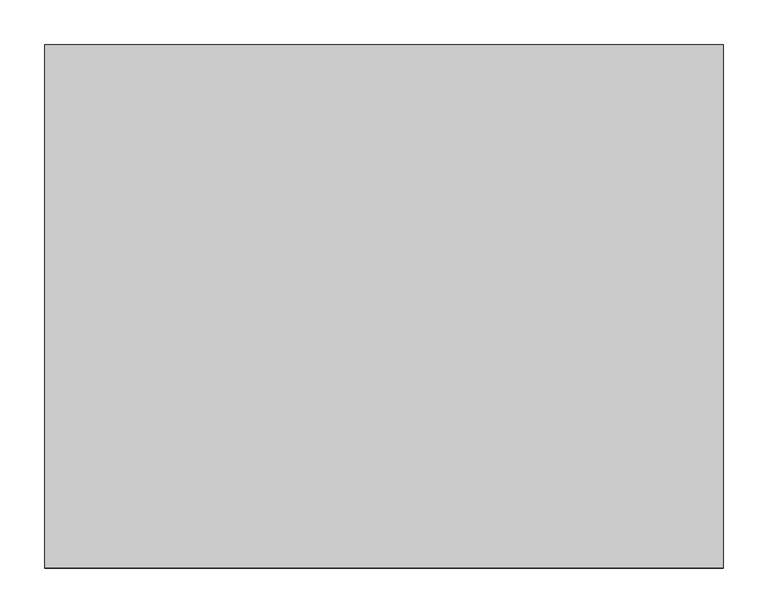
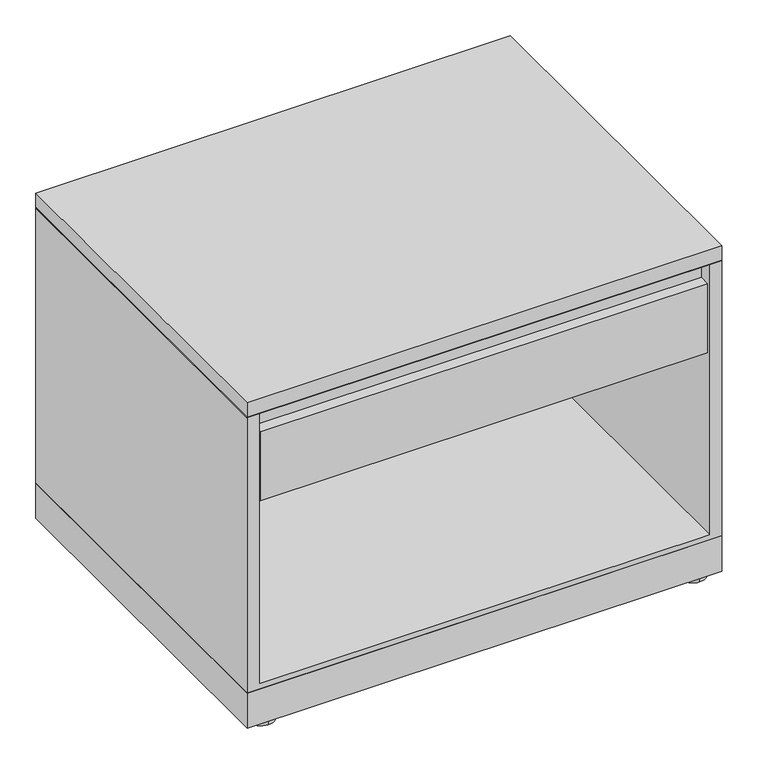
"""IFC4 building model written with IfcOpenShell, lengths in millimetres: furniture geometry, Steelcase - Universal Storage - Lateral File - 1.5 High - Flush Steel : Drawer/Open - 23 1/8D x 30W."""

from ifc_helpers import new_model, si_unit, point, frame, frame_2d, origin, origin_with_axes, place, context, project, spatial, polyline, circle_curve, trimmed, segment, composite_curve, outline, extrude, faceted_brep, source, transform, mapped, element, save


def furniture_3a3bf5ed(model_context):
    return source(origin(), model_context, "Body", "SolidModel", [
        extrude(outline(polyline([(762.0, 587.502), (762.0, 0.0), (0.0, 0.0), (0.0, 587.502), (762.0, 587.502)])), frame((0.0, 0.0, 6.3500002), z_axis=(0.0, 0.0, 1.0), x_axis=(1.0, 0.0, 0.0)), (0.0, 0.0, 1.0), 59.6899998),
        extrude(outline(composite_curve([segment(trimmed(circle_curve(frame_2d((727.3290058, 565.1653666)), 20.32), [point((727.3290058, 544.8453666))], [point((727.3290058, 585.4853666))], False, "CARTESIAN"), True, "CONTINUOUS"), segment(trimmed(circle_curve(frame_2d((727.3290058, 565.1653666)), 20.32), [point((727.3290058, 585.4853666))], [point((727.3290058, 544.8453666))], False, "CARTESIAN"), True, "CONTINUOUS")], self_intersect=False)), origin_with_axes(), (0.0, 0.0, 1.0), 6.3500002),
        extrude(outline(composite_curve([segment(trimmed(circle_curve(frame_2d((727.3290058, 20.7491455)), 20.32), [point((727.3290058, 0.4291455))], [point((727.3290058, 41.0691455))], False, "CARTESIAN"), True, "CONTINUOUS"), segment(trimmed(circle_curve(frame_2d((727.3290058, 20.7491455)), 20.32), [point((727.3290058, 41.0691455))], [point((727.3290058, 0.4291455))], False, "CARTESIAN"), True, "CONTINUOUS")], self_intersect=False)), origin_with_axes(), (0.0, 0.0, 1.0), 6.3500002),
        extrude(outline(composite_curve([segment(trimmed(circle_curve(frame_2d((34.29, 565.1653666)), 20.32), [point((34.29, 585.4853666))], [point((34.29, 544.8453666))], False, "CARTESIAN"), True, "CONTINUOUS"), segment(trimmed(circle_curve(frame_2d((34.29, 565.1653666)), 20.32), [point((34.29, 544.8453666))], [point((34.29, 585.4853666))], False, "CARTESIAN"), True, "CONTINUOUS")], self_intersect=False)), origin_with_axes(), (0.0, 0.0, 1.0), 6.3500002),
        extrude(outline(composite_curve([segment(trimmed(circle_curve(frame_2d((34.29, 20.7491455)), 20.32), [point((34.29, 41.0691455))], [point((34.29, 0.4291455))], False, "CARTESIAN"), True, "CONTINUOUS"), segment(trimmed(circle_curve(frame_2d((34.29, 20.7491455)), 20.32), [point((34.29, 0.4291455))], [point((34.29, 41.0691455))], False, "CARTESIAN"), True, "CONTINUOUS")], self_intersect=False)), origin_with_axes(), (0.0, 0.0, 1.0), 6.3500002),
        extrude(outline(polyline([(568.0964128, 396.7988176), (568.0964128, 410.7687861), (571.271412, 410.7687861), (571.271412, 371.5257963), (26.822418, 371.5257963), (26.822418, 396.7988176), (568.0964128, 396.7988176)])), frame((22.0472, 0.0, 0.0), z_axis=(1.0, 0.0, 0.0), x_axis=(0.0, 1.0, 0.0)), (0.0, 0.0, 1.0), 717.9056),
        extrude(outline(polyline([(1.45e-05, 534.0350121), (587.502, 534.0350121), (586.7399879, 533.273), (0.7620266, 533.273), (1.45e-05, 534.0350121)])), frame((0.0, 0.0, 0.0), z_axis=(1.0, 0.0, 0.0), x_axis=(0.0, 1.0, 0.0)), (0.0, 0.0, 1.0), 762.0),
        extrude(outline(polyline([(762.0, 587.502), (762.0, 0.0), (0.0, 0.0), (0.0, 587.502), (762.0, 587.502)])), frame((0.0, 0.0, 534.0350121), z_axis=(0.0, 0.0, 1.0), x_axis=(1.0, 0.0, 0.0)), (0.0, 0.0, 1.0), 24.6379729),
        faceted_brep([(762.0, 0.0, 66.04), (762.0, 587.502, 66.04), (762.0, 587.502, 533.273), (762.0, 0.0, 533.273), (0.0, 0.0, 533.273), (0.0, 587.502, 533.273), (0.0, 587.502, 66.04), (0.0, 0.0, 66.04), (742.95, 0.0, 533.273), (742.95, 0.0, 75.1586), (19.05, 0.0, 75.1586), (19.05, 0.0, 533.273), (19.05, 584.3269999, 533.273), (742.95, 584.3269999, 533.273), (19.05, 584.3269999, 75.1586), (742.95, 584.3269999, 75.1586)], [[[0, 1, 2, 3]], [[4, 5, 6, 7]], [[0, 3, 8, 9, 10, 11, 4, 7]], [[2, 1, 6, 5]], [[3, 2, 5, 4, 11, 12, 13, 8]], [[12, 14, 15, 13]], [[14, 12, 11, 10]], [[13, 15, 9, 8]], [[1, 0, 7, 6]], [[10, 9, 15, 14]]]),
        extrude(outline(polyline([(23.6541043, 384.1241916), (1.5178885, 384.1241916), (1.5178885, 501.1928089), (19.3741023, 501.1928089), (19.3741023, 531.799807), (23.6541043, 531.799807), (23.6541043, 384.1241916)])), frame((22.0472, 0.0, 0.0), z_axis=(1.0, 0.0, 0.0), x_axis=(0.0, 1.0, 0.0)), (0.0, 0.0, 1.0), 717.9056),
    ])


if __name__ == "__main__":
    model = new_model("IFC4")
    model_context = context("Model", 3, world=origin())
    ifc_project = project(units=[si_unit("LENGTHUNIT", "METRE", prefix="MILLI")], contexts=[model_context])
    site = spatial("IfcSite", under=ifc_project)
    building = spatial("IfcBuilding", under=site)
    placement = place(None, origin())
    furniture_shape = furniture_3a3bf5ed(model_context)
    element("IfcFurniture", 1, ObjectType="Steelcase - Universal Storage - Lateral File - 1.5 High - Flush Steel : Drawer/Open - 23 1/8D x 30W", at=placement, inside=building, context=model_context, shape_type="MappedRepresentation", body=[
        mapped(furniture_shape, transform((0.0, 0.0, 0.0), x_axis=(1.0, 0.0, 0.0), y_axis=(0.0, 1.0, 0.0), z_axis=(0.0, 0.0, 1.0))),
    ])
    save(model, "model.ifc")
